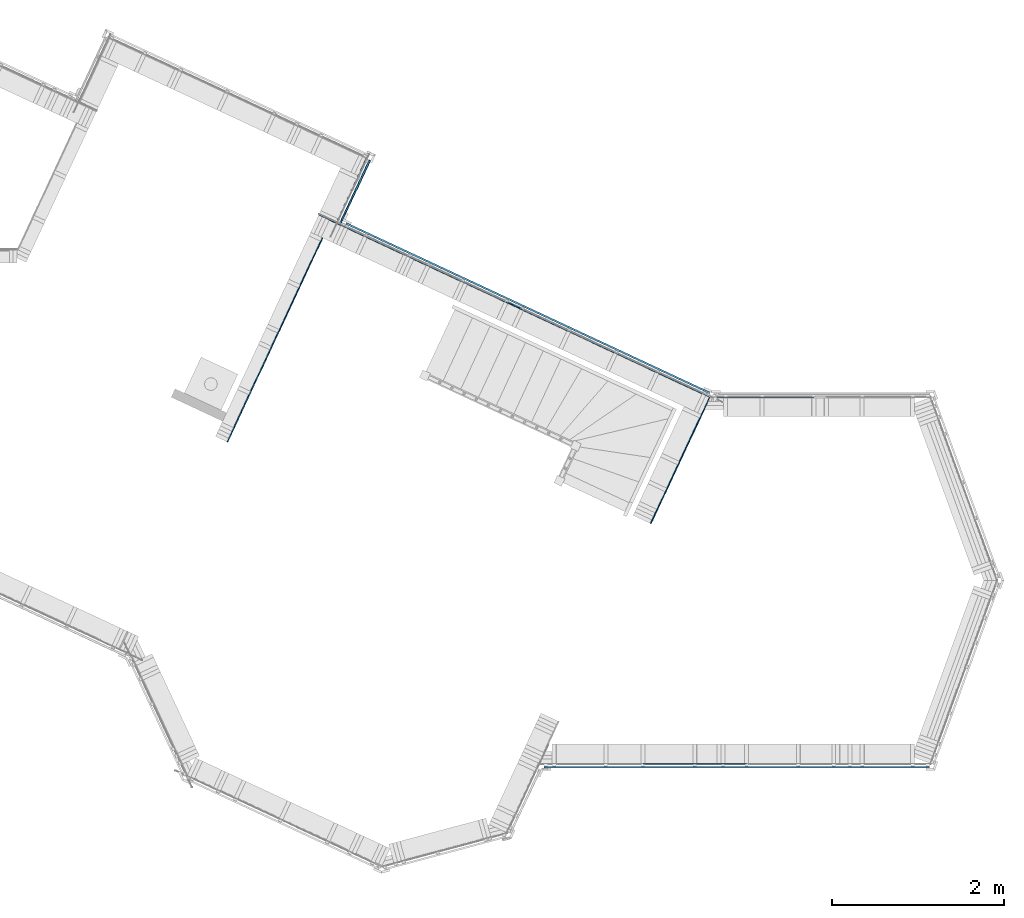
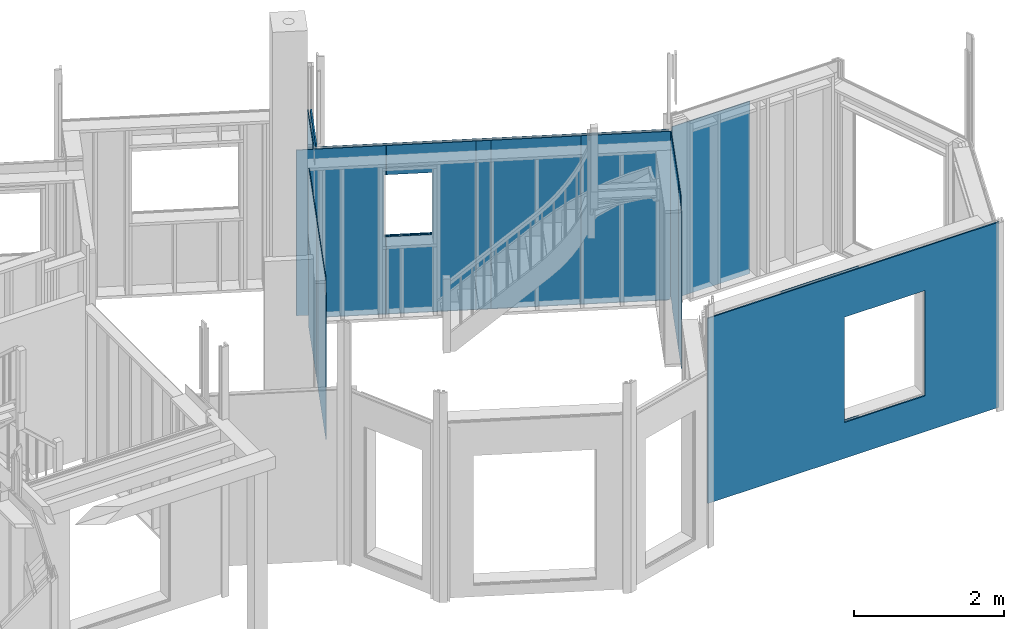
# One storey, part 25 of 34: 17 plates.
"""IFC2X3 building model written with IfcOpenShell, lengths in metres."""

from ifc_helpers import new_model, si_unit, direction, frame, origin_with_axes, place, context, subcontext, project, spatial, faceted_brep, material, element, save


model = new_model("IFC2X3")

# Units and contexts
model_context = context("Model", 3, precision=1e-06, world=origin_with_axes(), true_north=direction((0.0, 1.0, 0.0)))
body_context = subcontext(model_context, "Body", "Model", "MODEL_VIEW")
ifc_project = project(units=[si_unit("LENGTHUNIT", "METRE"), si_unit("AREAUNIT", "SQUARE_METRE"), si_unit("VOLUMEUNIT", "CUBIC_METRE"), si_unit("PLANEANGLEUNIT", "RADIAN")], contexts=[model_context])

# Site, building, storey
site_placement = place(None, origin_with_axes())
site = spatial("IfcSite", under=ifc_project, at=site_placement, CompositionType="ELEMENT")
building_placement = place(site_placement, origin_with_axes())
building = spatial("IfcBuilding", under=site, at=building_placement, Name="Building 1", CompositionType="ELEMENT")
storey_placement = place(building_placement, origin_with_axes())
storey = spatial("IfcBuildingStorey", under=building, at=storey_placement, Name="Rez de chaussée", CompositionType="ELEMENT", Elevation=0.0)

# Plates
ifc_material_1 = material(Name="OSB")
plate_1_placement = place(storey_placement, frame((11.0923644, 6.3305307, 0.005), z_axis=(-0.9063078, 0.4226183, 0.0), x_axis=(0.0, 0.0, 1.0)))
element("IfcPlate", 1, at=plate_1_placement, inside=storey, material=ifc_material_1, Name="Panneau de contreventement MFP", context=body_context, shape_type="Brep", body=[
    faceted_brep([(2.8, 0.4081089, 0.006), (2.8, 0.4081089, -0.006), (0.0, 0.4081089, -0.006), (0.0, 0.4081089, 0.006), (0.0, -0.4081089, -0.006), (2.8, -0.4081089, -0.006), (0.0, -0.4081089, 0.006), (2.8, -0.4081089, 0.006)], [[[0, 1, 2, 3]], [[4, 2, 1, 5]], [[4, 6, 3, 2]], [[5, 7, 6, 4]], [[5, 1, 0, 7]], [[7, 0, 3, 6]]]),
])
plate_2_placement = place(storey_placement, frame((10.5011439, 5.2401193, 0.005), z_axis=(0.9063078, -0.4226183, 0.0), x_axis=(0.0, 0.0, 1.0)))
element("IfcPlate", 2, at=plate_2_placement, inside=storey, material=ifc_material_1, Name="Panneau de contreventement MFP", context=body_context, shape_type="Brep", body=[
    faceted_brep([(0.0, -0.598, 0.006), (2.58, -0.598, 0.006), (2.58, 0.598, 0.006), (0.0, 0.598, 0.006), (0.0, -0.598, -0.006), (0.0, 0.598, -0.006), (2.58, -0.598, -0.006), (2.58, 0.598, -0.006)], [[[0, 1, 2, 3]], [[4, 0, 3, 5]], [[6, 4, 5, 7]], [[5, 3, 2, 7]], [[1, 6, 7, 2]], [[6, 1, 0, 4]]]),
])
plate_3_placement = place(storey_placement, frame((11.2545009, 5.7980066, 0.005), z_axis=(0.4226183, 0.9063078, 0.0), x_axis=(0.0, 0.0, 1.0)))
element("IfcPlate", 3, at=plate_3_placement, inside=storey, material=ifc_material_1, Name="Panneau de contreventement MFP", context=body_context, shape_type="Brep", body=[
    faceted_brep([(0.0, -0.378, -0.006), (0.04, -0.378, -0.006), (0.04, -0.378, 0.006), (0.0, -0.378, 0.006), (0.04, -0.598, -0.006), (0.04, -0.598, 0.006), (0.0, 0.598, 0.006), (0.0, 0.598, -0.006), (2.73, -0.598, 0.006), (2.73, 0.598, 0.006), (2.255, 0.598, 0.006), (2.255, 0.574308, 0.006), (1.247, 0.574308, 0.006), (1.247, 0.598, 0.006), (2.73, -0.598, -0.006), (2.73, 0.598, -0.006), (1.247, 0.598, -0.006), (1.247, 0.574308, -0.006), (2.255, 0.574308, -0.006), (2.255, 0.598, -0.006)], [[[0, 1, 2, 3]], [[1, 4, 5, 2]], [[0, 3, 6, 7]], [[3, 2, 5, 8, 9, 10, 11, 12, 13, 6]], [[9, 8, 14, 15]], [[5, 4, 14, 8]], [[16, 13, 12, 17]], [[1, 0, 7, 16, 17, 18, 19, 15, 14, 4]], [[10, 19, 18, 11]], [[12, 11, 18, 17]], [[9, 15, 19, 10]], [[13, 16, 7, 6]]]),
])
plate_4_placement = place(storey_placement, frame((12.3420703, 5.2908647, 0.005), z_axis=(0.4226183, 0.9063078, 0.0), x_axis=(0.0, 0.0, 1.0)))
element("IfcPlate", 4, at=plate_4_placement, inside=storey, material=ifc_material_1, Name="Panneau de contreventement MFP", context=body_context, shape_type="Brep", body=[
    faceted_brep([(2.73, 0.598, 0.006), (2.73, -0.598, 0.006), (2.73, -0.598, -0.006), (2.73, 0.598, -0.006), (2.255, -0.598, 0.006), (2.255, -0.598, -0.006), (0.0, 0.598, 0.006), (0.0, -0.598, 0.006), (1.247, -0.598, 0.006), (1.247, 0.014308, 0.006), (2.255, 0.014308, 0.006), (2.255, 0.014308, -0.006), (1.247, 0.014308, -0.006), (1.247, -0.598, -0.006), (0.0, -0.598, -0.006), (0.0, 0.598, -0.006)], [[[0, 1, 2, 3]], [[2, 1, 4, 5]], [[1, 0, 6, 7, 8, 9, 10, 4]], [[5, 4, 10, 11]], [[3, 2, 5, 11, 12, 13, 14, 15]], [[8, 13, 12, 9]], [[10, 9, 12, 11]], [[13, 8, 7, 14]], [[14, 7, 6, 15]], [[0, 3, 15, 6]]]),
])
plate_5_placement = place(storey_placement, frame((13.6107253, 4.6992811, 0.005), z_axis=(0.4226183, 0.9063078, 0.0), x_axis=(0.0, 0.0, 1.0)))
element("IfcPlate", 5, at=plate_5_placement, inside=storey, material=ifc_material_1, Name="Panneau de contreventement MFP", context=body_context, shape_type="Brep", body=[
    faceted_brep([(2.73, -0.598, 0.006), (2.73, -0.598, -0.006), (2.73, 0.598, -0.006), (2.73, 0.598, 0.006), (0.0, -0.598, -0.006), (0.0, 0.598, -0.006), (0.0, -0.598, 0.006), (0.0, 0.598, 0.006)], [[[0, 1, 2, 3]], [[2, 1, 4, 5]], [[1, 0, 6, 4]], [[0, 3, 7, 6]], [[4, 6, 7, 5]], [[3, 2, 5, 7]]]),
])
ifc_material_2 = material(Name="Mélèze")
plate_6_placement = place(storey_placement, frame((13.1344141, 4.9671789, -0.03), z_axis=(0.4226183, 0.9063078, 0.0), x_axis=(0.0, 0.0, 1.0)))
element("IfcPlate", 6, at=plate_6_placement, inside=storey, material=ifc_material_2, Name="Bardage", context=body_context, shape_type="Brep", body=[
    faceted_brep([(2.765, -2.324903, 0.0105), (2.765, -2.324903, -0.0105), (2.765, 2.324903, -0.0105), (2.765, 2.324903, 0.0105), (0.0, -2.324903, -0.0105), (0.0, 2.324903, -0.0105), (1.282, -0.840595, -0.0105), (1.282, -1.480595, -0.0105), (2.29, -1.480595, -0.0105), (2.29, -0.840595, -0.0105), (0.0, -2.324903, 0.0105), (0.0, 2.324903, 0.0105), (2.29, -1.480595, 0.0105), (1.282, -1.480595, 0.0105), (1.282, -0.840595, 0.0105), (2.29, -0.840595, 0.0105)], [[[0, 1, 2, 3]], [[2, 1, 4, 5], [6, 7, 8, 9]], [[1, 0, 10, 4]], [[4, 10, 11, 5]], [[0, 3, 11, 10], [12, 13, 14, 15]], [[15, 14, 6, 9]], [[12, 15, 9, 8]], [[13, 12, 8, 7]], [[14, 13, 7, 6]], [[3, 2, 5, 11]]]),
])
plate_7_placement = place(storey_placement, frame((14.6509263, 2.6613717, 0.005), z_axis=(0.9063078, -0.4226183, 0.0), x_axis=(0.0, 0.0, 1.0)))
element("IfcPlate", 7, at=plate_7_placement, inside=storey, material=ifc_material_1, Name="Panneau de contreventement MFP", context=body_context, shape_type="Brep", body=[
    faceted_brep([(2.52, 0.0783652, 0.006), (2.73, 0.0783652, 0.006), (2.73, 0.0783652, -0.006), (2.52, 0.0783652, -0.006), (2.52, 0.2133652, -0.006), (2.73, -0.2133652, -0.006), (0.0, -0.2133652, -0.006), (0.0, 0.2133652, -0.006), (2.73, -0.2133652, 0.006), (2.52, 0.2133652, 0.006), (0.0, 0.2133652, 0.006), (0.0, -0.2133652, 0.006)], [[[0, 1, 2, 3]], [[4, 3, 2, 5, 6, 7]], [[2, 1, 8, 5]], [[0, 9, 10, 11, 8, 1]], [[3, 4, 9, 0]], [[5, 8, 11, 6]], [[10, 7, 6, 11]], [[9, 4, 7, 10]]]),
])
plate_8_placement = place(storey_placement, frame((14.6982946, 4.1921392, 0.005), z_axis=(0.4226183, 0.9063078, 0.0), x_axis=(0.0, 0.0, 1.0)))
element("IfcPlate", 8, at=plate_8_placement, inside=storey, material=ifc_material_1, Name="Panneau de contreventement MFP", context=body_context, shape_type="Brep", body=[
    faceted_brep([(2.73, -0.598, 0.006), (2.73, -0.598, -0.006), (2.73, 0.598, -0.006), (2.73, 0.598, 0.006), (0.0, -0.598, -0.006), (0.0, 0.598, -0.006), (0.0, -0.598, 0.006), (0.0, 0.598, 0.006)], [[[0, 1, 2, 3]], [[2, 1, 4, 5]], [[1, 0, 6, 4]], [[0, 3, 7, 6]], [[4, 6, 7, 5]], [[3, 2, 5, 7]]]),
])
plate_9_placement = place(storey_placement, frame((12.9763978, 4.9950729, 0.005), z_axis=(0.4226183, 0.9063078, 0.0), x_axis=(0.0, 0.0, 1.0)))
element("IfcPlate", 9, at=plate_9_placement, inside=storey, material=ifc_material_1, Name="Panneau de contreventement MFP", context=body_context, shape_type="Brep", body=[
    faceted_brep([(2.73, 0.097903, 0.006), (2.73, -0.097903, 0.006), (2.73, -0.097903, -0.006), (2.73, 0.097903, -0.006), (0.0, -0.097903, 0.006), (0.0, -0.097903, -0.006), (0.0, 0.097903, 0.006), (0.0, 0.097903, -0.006)], [[[0, 1, 2, 3]], [[2, 1, 4, 5]], [[1, 0, 6, 4]], [[6, 7, 5, 4]], [[3, 2, 5, 7]], [[0, 3, 7, 6]]]),
])
plate_10_placement = place(storey_placement, frame((10.2022143, 4.5990629, 0.005), z_axis=(0.9063078, -0.4226183, 0.0), x_axis=(0.0, 0.0, 1.0)))
element("IfcPlate", 10, at=plate_10_placement, inside=storey, material=ifc_material_1, Name="Panneau de contreventement MFP", context=body_context, shape_type="Brep", body=[
    faceted_brep([(0.0, 0.1053276, -0.006), (0.0, 0.1053276, 0.006), (2.58, 0.1053276, 0.006), (2.58, 0.1053276, -0.006), (2.58, -0.1053276, 0.006), (2.58, -0.1053276, -0.006), (0.0, -0.1053276, 0.006), (0.0, -0.1053276, -0.006)], [[[0, 1, 2, 3]], [[3, 2, 4, 5]], [[2, 1, 6, 4]], [[1, 0, 7, 6]], [[0, 3, 5, 7]], [[5, 4, 6, 7]]]),
])
plate_11_placement = place(storey_placement, frame((15.0708032, -0.31422, 2.809), z_axis=(0.0, -1.0, 0.0), x_axis=(0.0, 0.0, 1.0)))
element("IfcPlate", 11, at=plate_11_placement, inside=storey, material=ifc_material_1, Name="Panneau de contreventement MFP", context=body_context, shape_type="Brep", body=[
    faceted_brep([(0.0, 0.598, 0.006), (0.0, 0.598, -0.006), (0.0, -0.598, -0.006), (0.0, -0.598, 0.006), (0.171, 0.598, -0.006), (0.171, -0.598, -0.006), (0.171, 0.598, 0.006), (0.171, -0.598, 0.006)], [[[0, 1, 2, 3]], [[2, 1, 4, 5]], [[1, 0, 6, 4]], [[0, 3, 7, 6]], [[7, 5, 4, 6]], [[3, 2, 5, 7]]]),
])
plate_12_placement = place(storey_placement, frame((9.9032848, 3.9580064, 0.005), z_axis=(0.9063078, -0.4226183, 0.0), x_axis=(0.0, 0.0, 1.0)))
element("IfcPlate", 12, at=plate_12_placement, inside=storey, material=ifc_material_1, Name="Panneau de contreventement MFP", context=body_context, shape_type="Brep", body=[
    faceted_brep([(2.58, 0.463, -0.006), (2.34, 0.463, -0.006), (2.34, 0.463, 0.006), (2.58, 0.463, 0.006), (2.34, 0.598, -0.006), (2.34, 0.598, 0.006), (2.58, -0.598, 0.006), (2.58, -0.598, -0.006), (0.0, 0.598, 0.006), (0.0, -0.598, 0.006), (0.0, -0.598, -0.006), (0.0, 0.598, -0.006)], [[[0, 1, 2, 3]], [[1, 4, 5, 2]], [[0, 3, 6, 7]], [[3, 2, 5, 8, 9, 6]], [[1, 0, 7, 10, 11, 4]], [[5, 4, 11, 8]], [[10, 9, 8, 11]], [[7, 6, 9, 10]]]),
])
plate_13_placement = place(storey_placement, frame((11.1310327, 6.3152578, -0.03), z_axis=(-0.4226183, -0.9063078, 0.0), x_axis=(0.0, 0.0, 1.0)))
element("IfcPlate", 13, at=plate_13_placement, inside=storey, material=ifc_material_2, Name="Bardage", context=body_context, shape_type="Brep", body=[
    faceted_brep([(0.0, -0.0105, -0.4056089), (0.0, 0.0105, -0.4056089), (2.835, 0.0105, -0.4056089), (2.835, -0.0105, -0.4056089), (0.0, 0.0105, 0.4056089), (2.835, 0.0105, 0.4056089), (0.0, -0.0105, 0.4056089), (2.835, -0.0105, 0.4056089)], [[[0, 1, 2, 3]], [[1, 4, 5, 2]], [[4, 6, 7, 5]], [[6, 0, 3, 7]], [[0, 6, 4, 1]], [[7, 3, 2, 5]]]),
])
plate_14_placement = place(storey_placement, frame((15.5590394, -0.35572, -0.03), z_axis=(0.0, -1.0, 0.0), x_axis=(0.0, 0.0, 1.0)))
element("IfcPlate", 14, at=plate_14_placement, inside=storey, material=ifc_material_2, Name="Bardage", context=body_context, shape_type="Brep", body=[
    faceted_brep([(3.005, -2.2362362, 0.0105), (3.005, 2.2362362, 0.0105), (0.0, 2.2362362, 0.0105), (0.0, -2.2362362, 0.0105), (2.29, -1.1014971, 0.0105), (0.582, -1.1014971, 0.0105), (0.582, 0.1385029, 0.0105), (2.29, 0.1385029, 0.0105), (3.005, -2.2362362, -0.0105), (0.0, -2.2362362, -0.0105), (3.005, 2.2362362, -0.0105), (0.0, 2.2362362, -0.0105), (2.29, -1.1014971, -0.0105), (2.29, 0.1385029, -0.0105), (0.582, 0.1385029, -0.0105), (0.582, -1.1014971, -0.0105)], [[[0, 1, 2, 3], [4, 5, 6, 7]], [[8, 0, 3, 9]], [[10, 8, 9, 11], [12, 13, 14, 15]], [[2, 11, 9, 3]], [[1, 10, 11, 2]], [[1, 0, 8, 10]], [[14, 13, 7, 6]], [[15, 14, 6, 5]], [[12, 15, 5, 4]], [[13, 12, 4, 7]]]),
])
plate_15_placement = place(storey_placement, frame((15.8516781, 3.9337799, 0.005), z_axis=(0.0, 1.0, 0.0), x_axis=(0.0, 0.0, 1.0)))
element("IfcPlate", 15, at=plate_15_placement, inside=storey, material=ifc_material_1, Name="Panneau de contreventement MFP", context=body_context, shape_type="Brep", body=[
    faceted_brep([(2.8, -0.598, 0.006), (2.8, -0.598, -0.006), (2.8, 0.598, -0.006), (2.8, 0.598, 0.006), (0.0, -0.598, 0.006), (0.0, 0.598, 0.006), (0.0, 0.598, -0.006), (0.0, -0.598, -0.006)], [[[0, 1, 2, 3]], [[4, 0, 3, 5]], [[6, 5, 3, 2]], [[7, 4, 5, 6]], [[1, 7, 6, 2]], [[1, 0, 4, 7]]]),
])
plate_16_placement = place(storey_placement, frame((15.0708032, -0.31422, 0.005), z_axis=(0.0, -1.0, 0.0), x_axis=(0.0, 0.0, 1.0)))
element("IfcPlate", 16, at=plate_16_placement, inside=storey, material=ifc_material_1, Name="Panneau de contreventement MFP", context=body_context, shape_type="Brep", body=[
    faceted_brep([(2.8, 0.598, -0.006), (2.8, 0.598, 0.006), (2.8, -0.598, 0.006), (2.8, -0.598, -0.006), (0.0, 0.598, 0.006), (0.0, -0.598, 0.006), (0.547, -0.598, 0.006), (0.547, -0.3497333, 0.006), (2.255, -0.3497333, 0.006), (2.255, -0.598, 0.006), (0.0, 0.598, -0.006), (2.255, -0.598, -0.006), (2.255, -0.3497333, -0.006), (0.547, -0.3497333, -0.006), (0.547, -0.598, -0.006), (0.0, -0.598, -0.006)], [[[0, 1, 2, 3]], [[2, 1, 4, 5, 6, 7, 8, 9]], [[1, 0, 10, 4]], [[0, 3, 11, 12, 13, 14, 15, 10]], [[3, 2, 9, 11]], [[11, 9, 8, 12]], [[8, 7, 13, 12]], [[6, 14, 13, 7]], [[15, 5, 4, 10]], [[14, 6, 5, 15]]]),
])
plate_17_placement = place(storey_placement, frame((14.9955145, 3.4003436, 0.005), z_axis=(0.9063078, -0.4226183, 0.0), x_axis=(0.0, 0.0, 1.0)))
element("IfcPlate", 17, at=plate_17_placement, inside=storey, material=ifc_material_1, Name="Panneau de contreventement MFP", context=body_context, shape_type="Brep", body=[
    faceted_brep([(0.04, -0.598, 0.006), (0.04, -0.366, 0.006), (0.04, -0.366, -0.006), (0.04, -0.598, -0.006), (0.0, -0.366, 0.006), (0.0, -0.366, -0.006), (2.73, -0.598, 0.006), (2.73, 0.598, 0.006), (0.0, 0.598, 0.006), (2.73, -0.598, -0.006), (2.73, 0.598, -0.006), (0.0, 0.598, -0.006)], [[[0, 1, 2, 3]], [[1, 4, 5, 2]], [[4, 1, 0, 6, 7, 8]], [[0, 3, 9, 6]], [[6, 9, 10, 7]], [[2, 5, 11, 10, 9, 3]], [[5, 4, 8, 11]], [[7, 10, 11, 8]]]),
])

save(model, "model.ifc")
